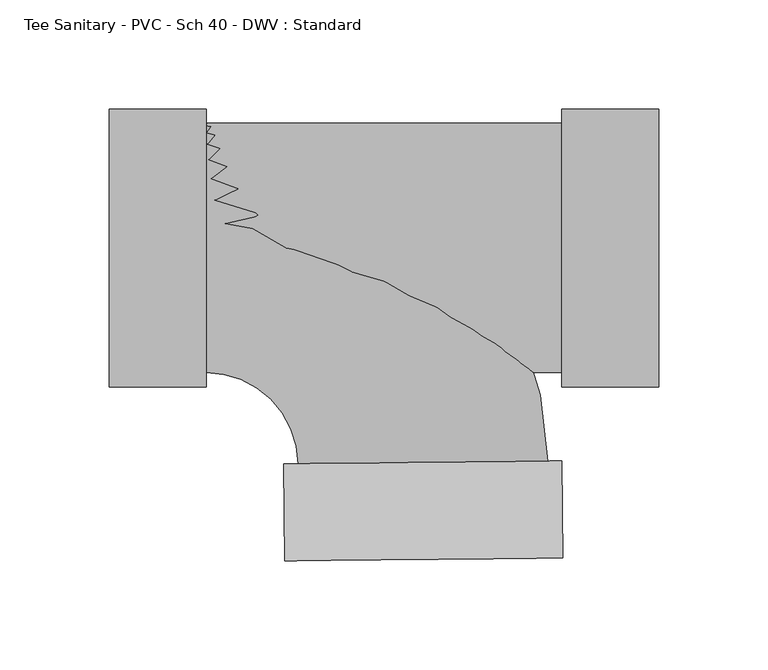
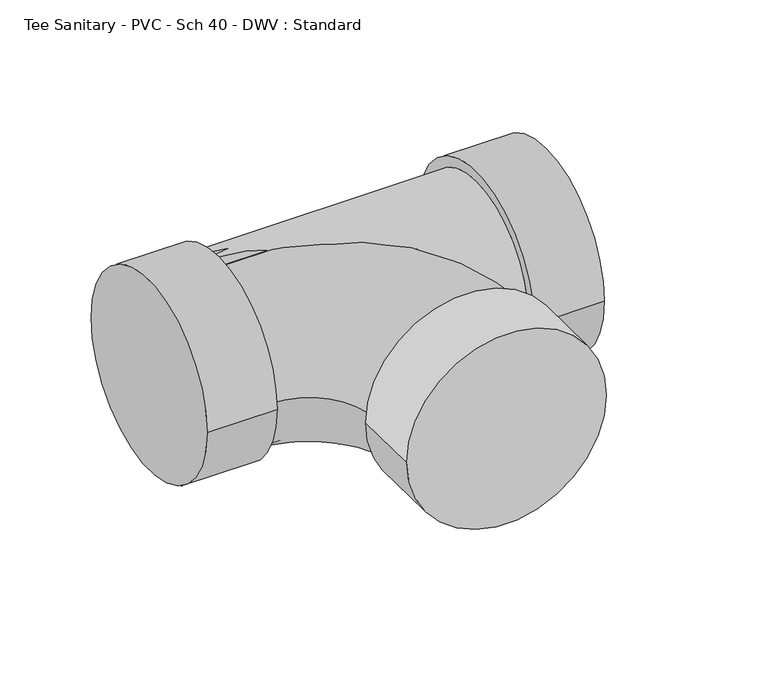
"""IFC4 building model written with IfcOpenShell, lengths in millimetres: pipe fitting geometry, Tee Sanitary - PVC - Sch 40 - DWV : Standard."""

import ifcopenshell
import ifcopenshell.guid

model = None  # the IFC model being written
_history = None  # IfcOwnerHistory: only IFC2X3 demands one
_inside = {}  # id of a spatial element -> (the spatial element, [elements in it])
_under = {}  # id of a project, library or spatial element -> (it, [spatial elements below it])
_declared = {}  # id of a project -> (the project, [libraries it declares])
_typed = {}  # id of a type object -> (the type object, [elements of that type])
_made_of = {}  # id of a material, layer set ... -> (it, [elements and type objects made of it])


def new_model(schema):
    """Start an empty IFC model of exactly this schema.

    Asked for "IFC4X3", IfcOpenShell would pick the latest addendum, in which some entities
    have other attributes; the version numbers below select the first issue.
    IFC2X3 requires an IfcOwnerHistory on every rooted entity: one is made here for all.
    """
    global model, _history
    if schema == "IFC4X3":
        model = ifcopenshell.file(schema_version=(4, 3, 0, 0))
    else:
        model = ifcopenshell.file(schema=schema)
    _inside.clear()
    _under.clear()
    _declared.clear()
    _typed.clear()
    _made_of.clear()
    _history = None
    if model.schema == "IFC2X3":
        org = make("IfcOrganization", Name="unknown")
        user = make(
            "IfcPersonAndOrganization",
            ThePerson=make("IfcPerson", FamilyName="unknown"),
            TheOrganization=org,
        )
        app = make(
            "IfcApplication",
            ApplicationDeveloper=org,
            Version="unknown",
            ApplicationFullName="unknown",
            ApplicationIdentifier="unknown",
        )
        _history = make(
            "IfcOwnerHistory",
            OwningUser=user,
            OwningApplication=app,
            ChangeAction="ADDED",
            CreationDate=0,
        )
    return model


def make(cls, **values):
    """One entity of the class cls with the attributes given. An attribute that is None is left unset."""
    return model.create_entity(
        cls, **{name: value for name, value in values.items() if value is not None}
    )


def rooted(cls, **values):
    """An entity with a GlobalId (a new one), such as an element, a storey or a relation."""
    return make(cls, GlobalId=ifcopenshell.guid.new(), OwnerHistory=_history, **values)


def si_unit(unit_type, name, prefix=None):
    """IfcSIUnit, for example si_unit("LENGTHUNIT", "METRE", prefix="MILLI")."""
    return make("IfcSIUnit", UnitType=unit_type, Prefix=prefix, Name=name)


def assignment(units):
    """IfcUnitAssignment: the units of a project."""
    return None if units is None else make("IfcUnitAssignment", Units=units)


def point(xyz):
    """IfcCartesianPoint."""
    return None if xyz is None else make("IfcCartesianPoint", Coordinates=xyz)


def direction(xyz):
    """IfcDirection."""
    return None if xyz is None else make("IfcDirection", DirectionRatios=xyz)


def frame(location, z_axis=None, x_axis=None):
    """IfcAxis2Placement3D, a coordinate frame: its origin and axes. An axis left out is left unset."""
    return make(
        "IfcAxis2Placement3D",
        Location=point(location),
        Axis=direction(z_axis),
        RefDirection=direction(x_axis),
    )


def origin():
    """The frame at (0, 0, 0) with its axes left unset."""
    return frame((0.0, 0.0, 0.0))


def place(relative_to, where):
    """IfcLocalPlacement: puts the frame where relative to a parent placement (None: the world)."""
    return make(
        "IfcLocalPlacement", PlacementRelTo=relative_to, RelativePlacement=where
    )


def context(
    kind, dimensions, precision=None, world=None, true_north=None, identifier=None
):
    """IfcGeometricRepresentationContext, for example the 3D "Model" context."""
    return make(
        "IfcGeometricRepresentationContext",
        ContextIdentifier=identifier,
        ContextType=kind,
        CoordinateSpaceDimension=dimensions,
        Precision=precision,
        WorldCoordinateSystem=world,
        TrueNorth=true_north,
    )


def project(units=None, contexts=None):
    """IfcProject with its units and contexts."""
    return rooted(
        "IfcProject",
        Name="project",
        RepresentationContexts=contexts,
        UnitsInContext=assignment(units),
    )


def spatial(cls, under=None, at=None, **own):
    """A site, building, storey or space (cls), placed at a placement, below another one or the project."""
    s = rooted(cls, ObjectPlacement=at, **own)
    if under is not None:
        _under.setdefault(under.id(), (under, []))[1].append(s)
    return s


def circle_curve(where, radius):
    """IfcCircle in the frame where."""
    return make("IfcCircle", Position=where, Radius=radius)


def ellipse_curve(where, semi_axis1, semi_axis2):
    """IfcEllipse in the frame where."""
    return make(
        "IfcEllipse", Position=where, SemiAxis1=semi_axis1, SemiAxis2=semi_axis2
    )


def trimmed(basis, trim1, trim2, sense, master):
    """IfcTrimmedCurve: the piece of a basis curve between two trims."""
    return make(
        "IfcTrimmedCurve",
        BasisCurve=basis,
        Trim1=trim1,
        Trim2=trim2,
        SenseAgreement=sense,
        MasterRepresentation=master,
    )


def shape(context_of_items, identifier, shape_type, items):
    """IfcShapeRepresentation: the items that make up one representation, for example the "Body"."""
    return make(
        "IfcShapeRepresentation",
        ContextOfItems=context_of_items,
        RepresentationIdentifier=identifier,
        RepresentationType=shape_type,
        Items=items,
    )


def source(mapping_origin, context_of_items, identifier, shape_type, items):
    """IfcRepresentationMap: a shape defined once, which mapped items show again and again."""
    return make(
        "IfcRepresentationMap",
        MappingOrigin=mapping_origin,
        MappedRepresentation=shape(context_of_items, identifier, shape_type, items),
    )


def transform(
    local_origin,
    x_axis=None,
    y_axis=None,
    z_axis=None,
    scale=None,
    scale2=None,
    scale3=None,
    uniform=True,
):
    """IfcCartesianTransformationOperator3D, or its non-uniform kind. x_axis, y_axis, z_axis: its Axis1, 2, 3."""
    if uniform:
        return make(
            "IfcCartesianTransformationOperator3D",
            Axis1=direction(x_axis),
            Axis2=direction(y_axis),
            LocalOrigin=point(local_origin),
            Scale=scale,
            Axis3=direction(z_axis),
        )
    return make(
        "IfcCartesianTransformationOperator3DnonUniform",
        Axis1=direction(x_axis),
        Axis2=direction(y_axis),
        LocalOrigin=point(local_origin),
        Scale=scale,
        Axis3=direction(z_axis),
        Scale2=scale2,
        Scale3=scale3,
    )


def mapped(mapping_source, mapping_target):
    """IfcMappedItem: shows the shape of a source again, moved by a transform."""
    return make(
        "IfcMappedItem", MappingSource=mapping_source, MappingTarget=mapping_target
    )


def made_of(thing, what):
    """Note that an element or type object is made of a material, layer set ...; save() writes the relation."""
    if what is not None:
        _made_of.setdefault(what.id(), (what, []))[1].append(thing)
    return thing


def element(
    cls,
    number,
    at=None,
    inside=None,
    cuts=None,
    type_object=None,
    material=None,
    context=None,
    identifier="Body",
    shape_type=None,
    held_by="IfcProductDefinitionShape",
    body=None,
    shapes=None,
    **own,
):
    """One element of the class cls, such as IfcWall. Its Tag is "e" and its number.

    at: its placement. inside: the storey or other place that contains it. cuts: it is an
    opening in that element (IfcRelVoidsElement). A single representation is given by context,
    identifier, shape_type and body (its items); several are given by shapes. held_by: the class
    of the entity that holds the representations. save() writes the other relations.
    """
    e = rooted(cls, Tag="e%d" % number, ObjectPlacement=at, **own)
    if body is not None:
        shapes = [shape(context, identifier, shape_type, body)]
    if shapes is not None:
        e.Representation = make(held_by, Representations=shapes)
    if inside is not None:
        _inside.setdefault(inside.id(), (inside, []))[1].append(e)
    if cuts is not None:
        rooted(
            "IfcRelVoidsElement", RelatingBuildingElement=cuts, RelatedOpeningElement=e
        )
    if type_object is not None:
        _typed.setdefault(type_object.id(), (type_object, []))[1].append(e)
    return made_of(e, material)


def aggregate(whole, parts):
    """IfcRelAggregates: a whole, such as a stair, and the parts it consists of."""
    return rooted("IfcRelAggregates", RelatingObject=whole, RelatedObjects=parts)


def save(model, path):
    """Write the relations noted so far, then the file.

    IfcRelAggregates (storeys below a building ...), IfcRelContainedInSpatialStructure (elements
    in a storey), IfcRelDefinesByType, IfcRelAssociatesMaterial and IfcRelDeclares: one each for
    every whole, place, type object, material and project.
    """
    for whole, parts in _under.values():
        aggregate(whole, parts)
    for where, things in _inside.values():
        rooted(
            "IfcRelContainedInSpatialStructure",
            RelatedElements=things,
            RelatingStructure=where,
        )
    for kind, things in _typed.values():
        rooted("IfcRelDefinesByType", RelatedObjects=things, RelatingType=kind)
    for what, things in _made_of.values():
        rooted("IfcRelAssociatesMaterial", RelatedObjects=things, RelatingMaterial=what)
    for by, libraries in _declared.values():
        rooted("IfcRelDeclares", RelatingContext=by, RelatedDefinitions=libraries)
    model.write(path)


def plane_surface(at):
    """IfcPlane: the flat surface through the origin of the frame at, square to its z axis."""
    return make("IfcPlane", Position=at)


def cylinder_surface(at, radius):
    """IfcCylindricalSurface: all points at the distance radius from the z axis of the frame at."""
    return make("IfcCylindricalSurface", Position=at, Radius=radius)


def revolved_surface(curve, axis_point, axis_direction):
    """IfcSurfaceOfRevolution: the curve turned about the line through axis_point along axis_direction."""
    return make(
        "IfcSurfaceOfRevolution",
        SweptCurve=make("IfcArbitraryOpenProfileDef", ProfileType="CURVE", Curve=curve),
        AxisPosition=make("IfcAxis1Placement", Location=point(axis_point), Axis=direction(axis_direction)),
    )


def advanced_brep(points, edges, surfaces, faces):
    """IfcAdvancedBrep: a solid bounded by faces that lie on surfaces and meet in shared edges.

    An edge is (start, end): straight between two places in points (the first is 0);
    or (start, end, curve); or (start, end, curve, False) where it runs against its curve.
    A face is (place in surfaces, loops), or (place, loops, False) where it looks against
    its surface's normal. A loop lists edges by number (the first is 1), with a minus sign
    where the edge is run from its end to its start. The first loop is the outer one.
    """
    corners = [point(p) for p in points]
    vertices = [make("IfcVertexPoint", VertexGeometry=c) for c in corners]
    made = []
    for start, end, *more in edges:
        made.append(
            make(
                "IfcEdgeCurve",
                EdgeStart=vertices[start],
                EdgeEnd=vertices[end],
                EdgeGeometry=more[0] if more else make("IfcPolyline", Points=[corners[start], corners[end]]),
                SameSense=more[1] if len(more) > 1 else True,
            )
        )
    hull = []
    for where, loops, *sense in faces:
        bounds = []
        for j, loop in enumerate(loops):
            ring = [make("IfcOrientedEdge", EdgeElement=made[abs(k) - 1], Orientation=k > 0) for k in loop]
            bounds.append(
                make(
                    "IfcFaceOuterBound" if j == 0 else "IfcFaceBound",
                    Bound=make("IfcEdgeLoop", EdgeList=ring),
                    Orientation=True,
                )
            )
        hull.append(make("IfcAdvancedFace", Bounds=bounds, FaceSurface=surfaces[where], SameSense=sense[0] if sense else True))
    return make("IfcAdvancedBrep", Outer=make("IfcClosedShell", CfsFaces=hull))


def tee_sanitary_pvc_sch_40_dwv_standard_2f6296fd(model_context):
    return source(origin(), model_context, "Body", "AdvancedBrep", [
        advanced_brep(
        [(-98.425, -57.15, 0.0), (-98.425, 57.15, 0.0), (-56.1230327, -99.0141825, 0.0), (58.1707827, -97.8251663, 0.0), (65.2368206, -142.2040625, 0.0), (-62.2642801, -143.5304761, 0.0), (64.7744254, -97.7564676, 0.0), (-62.7266753, -99.0828812, 0.0)],
        [
            (0, 1, circle_curve(frame((-98.425, 0.0, 0.0), z_axis=(-1.0, 0.0, 0.0), x_axis=(0.0, 1.0, 0.0)), 57.15)),
            (1, 0, circle_curve(frame((-98.425, 0.0, 0.0), z_axis=(-1.0, 0.0, 0.0), x_axis=(0.0, 1.0, 0.0)), 57.15)),
            (0, 2, circle_curve(frame((-98.425, -99.4542564, 0.0), z_axis=(0.0, 0.0, -1.0), x_axis=(0.0, 1.0, 0.0)), 42.3042564)),
            (2, 3, circle_curve(frame((1.023875, -98.4196744, 0.0), z_axis=(-0.010402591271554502, 0.9999458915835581, 0.0), x_axis=(0.9999458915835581, 0.010402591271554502, 0.0)), 57.15)),
            (3, 1, circle_curve(frame((-98.425, -99.4542564, 0.0), z_axis=(0.0, 0.0, 1.0), x_axis=(0.0, 1.0, 0.0)), 156.6042564)),
            (3, 2, circle_curve(frame((1.023875, -98.4196744, 0.0), z_axis=(-0.010402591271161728, 0.9999458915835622, 0.0), x_axis=(0.9999458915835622, 0.010402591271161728, 0.0)), 57.15)),
            (4, 5, circle_curve(frame((1.4862702, -142.8672693, 0.0), z_axis=(0.010402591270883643, -0.9999458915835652, 0.0), x_axis=(-0.9999458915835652, -0.010402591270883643, 0.0)), 63.754)),
            (5, 4, circle_curve(frame((1.4862702, -142.8672693, 0.0), z_axis=(0.010402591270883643, -0.9999458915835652, 0.0), x_axis=(-0.9999458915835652, -0.010402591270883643, 0.0)), 63.754)),
            (6, 7, circle_curve(frame((1.023875, -98.4196744, 0.0), z_axis=(-0.010402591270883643, 0.9999458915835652, 0.0), x_axis=(-0.9999458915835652, -0.010402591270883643, 0.0)), 63.754)),
            (7, 6, circle_curve(frame((1.023875, -98.4196744, 0.0), z_axis=(-0.010402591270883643, 0.9999458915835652, 0.0), x_axis=(-0.9999458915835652, -0.010402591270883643, 0.0)), 63.754)),
            (4, 6),
            (7, 5),
        ],
        [
            plane_surface(frame((-98.425, 0.0, 0.0), z_axis=(-1.0, 0.0, 0.0), x_axis=(0.0, 0.0, 1.0))),
            revolved_surface(trimmed(ellipse_curve(frame((-98.425, 0.0, 0.0), z_axis=(-1.0, 0.0, 0.0), x_axis=(0.0, 1.0, 0.0)), 57.15, 57.15), [point((-98.425, -57.15, 0.0))], [point((-98.425, 57.15, 0.0))], True, "CARTESIAN"), (-98.425, -99.4542564, 0.0), (0.0, 0.0, -1.0)),
            revolved_surface(trimmed(ellipse_curve(frame((-98.425, 0.0, 0.0), z_axis=(-1.0, 0.0, 0.0), x_axis=(0.0, 1.0, 0.0)), 57.15, 57.15), [point((-98.425, 57.15, 0.0))], [point((-98.425, -57.15, 0.0))], True, "CARTESIAN"), (-98.425, -99.4542564, 0.0), (0.0, 0.0, -1.0)),
            plane_surface(frame((1.4862702, -142.8672693, 0.0), z_axis=(0.010402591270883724, -0.9999458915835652, 0.0), x_axis=(0.0, 0.0, 1.0))),
            plane_surface(frame((1.023875, -98.4196744, 0.0), z_axis=(-0.010402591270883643, 0.9999458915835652, 0.0), x_axis=(0.0, 0.0, 1.0))),
            cylinder_surface(frame((1.4862702, -142.8672693, 0.0), z_axis=(0.010402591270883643, -0.9999458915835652, 0.0), x_axis=(-0.9999458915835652, -0.010402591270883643, 0.0)), 63.754),
        ],
        [
            (0, [[1, 2]]),
            (1, [[-1, 3, 4, 5]]),
            (2, [[-2, -5, 6, -3]]),
            (3, [[7, 8]]),
            (4, [[9, 10], [-4, -6]]),
            (5, [[-7, 11, -10, 12]]),
            (5, [[-8, -12, -9, -11]]),
        ],
    ),
        advanced_brep(
        [(-98.425, -57.15, 0.0), (64.7744254, -57.15, 0.0), (64.7744254, 57.15, 0.0), (-98.425, 57.15, 0.0), (64.7744254, -63.754, 0.0), (64.7744254, 63.754, 0.0), (109.2244254, -63.754, 0.0), (109.2244254, 63.754, 0.0), (-142.875, -63.754, 0.0), (-142.875, 63.754, 0.0), (-98.425, -63.754, 0.0), (-98.425, 63.754, 0.0)],
        [
            (0, 1),
            (1, 2, circle_curve(frame((64.7744254, 0.0, 0.0), z_axis=(-1.0, 0.0, 0.0), x_axis=(0.0, 1.0, 0.0)), 57.15)),
            (2, 3),
            (3, 0, circle_curve(frame((-98.425, 0.0, 0.0), z_axis=(1.0, 0.0, 0.0), x_axis=(0.0, 1.0, 0.0)), 57.15)),
            (0, 3, circle_curve(frame((-98.425, 0.0, 0.0), z_axis=(1.0, 0.0, 0.0), x_axis=(0.0, 1.0, 0.0)), 57.15)),
            (2, 1, circle_curve(frame((64.7744254, 0.0, 0.0), z_axis=(-1.0, 0.0, 0.0), x_axis=(0.0, 1.0, 0.0)), 57.15)),
            (4, 5, circle_curve(frame((64.7744254, 0.0, 0.0), z_axis=(-1.0, 0.0, 0.0), x_axis=(0.0, 1.0, 0.0)), 63.754)),
            (5, 4, circle_curve(frame((64.7744254, 0.0, 0.0), z_axis=(-1.0, 0.0, 0.0), x_axis=(0.0, 1.0, 0.0)), 63.754)),
            (6, 7, circle_curve(frame((109.2244254, 0.0, 0.0), z_axis=(1.0, 0.0, 0.0), x_axis=(0.0, 1.0, 0.0)), 63.754)),
            (7, 6, circle_curve(frame((109.2244254, 0.0, 0.0), z_axis=(1.0, 0.0, 0.0), x_axis=(0.0, 1.0, 0.0)), 63.754)),
            (4, 6),
            (7, 5),
            (8, 9, circle_curve(frame((-142.875, 0.0, 0.0), z_axis=(-1.0, 0.0, 0.0), x_axis=(0.0, 1.0, 0.0)), 63.754)),
            (9, 8, circle_curve(frame((-142.875, 0.0, 0.0), z_axis=(-1.0, 0.0, 0.0), x_axis=(0.0, 1.0, 0.0)), 63.754)),
            (10, 11, circle_curve(frame((-98.425, 0.0, 0.0), z_axis=(1.0, 0.0, 0.0), x_axis=(0.0, 1.0, 0.0)), 63.754)),
            (11, 10, circle_curve(frame((-98.425, 0.0, 0.0), z_axis=(1.0, 0.0, 0.0), x_axis=(0.0, 1.0, 0.0)), 63.754)),
            (8, 10),
            (11, 9),
        ],
        [
            cylinder_surface(frame((-98.425, 0.0, 0.0), z_axis=(-1.0, 0.0, 0.0), x_axis=(0.0, 1.0, 0.0)), 57.15),
            plane_surface(frame((64.7744254, 0.0, 0.0), z_axis=(-1.0, 0.0, 0.0), x_axis=(0.0, 0.0, 1.0))),
            plane_surface(frame((109.2244254, 0.0, 0.0), z_axis=(1.0, 0.0, 0.0), x_axis=(0.0, 0.0, 1.0))),
            cylinder_surface(frame((64.7744254, 0.0, 0.0), z_axis=(-1.0, 0.0, 0.0), x_axis=(0.0, 1.0, 0.0)), 63.754),
            plane_surface(frame((-142.875, 0.0, 0.0), z_axis=(-1.0, 0.0, 0.0), x_axis=(0.0, 0.0, 1.0))),
            plane_surface(frame((-98.425, 0.0, 0.0), z_axis=(1.0, 0.0, 0.0), x_axis=(0.0, 0.0, 1.0))),
            cylinder_surface(frame((-142.875, 0.0, 0.0), z_axis=(-1.0, 0.0, 0.0), x_axis=(0.0, 1.0, 0.0)), 63.754),
        ],
        [
            (0, [[1, 2, 3, 4]]),
            (0, [[-1, 5, -3, 6]]),
            (1, [[7, 8], [-2, -6]]),
            (2, [[9, 10]]),
            (3, [[-7, 11, -10, 12]]),
            (3, [[-8, -12, -9, -11]]),
            (4, [[13, 14]]),
            (5, [[15, 16], [-4, -5]]),
            (6, [[-13, 17, -16, 18]]),
            (6, [[-14, -18, -15, -17]]),
        ],
    ),
    ])


if __name__ == "__main__":
    model = new_model("IFC4")
    model_context = context("Model", 3, world=origin())
    ifc_project = project(units=[si_unit("LENGTHUNIT", "METRE", prefix="MILLI")], contexts=[model_context])
    site = spatial("IfcSite", under=ifc_project)
    building = spatial("IfcBuilding", under=site)
    placement = place(None, origin())
    tee_sanitary_pvc_sch_40_dwv_standard_shape = tee_sanitary_pvc_sch_40_dwv_standard_2f6296fd(model_context)
    element("IfcPipeFitting", 1, ObjectType="Tee Sanitary - PVC - Sch 40 - DWV : Standard", at=placement, inside=building, context=model_context, shape_type="MappedRepresentation", body=[
        mapped(tee_sanitary_pvc_sch_40_dwv_standard_shape, transform((0.0, 0.0, 0.0), x_axis=(1.0, 0.0, 0.0), y_axis=(0.0, 1.0, 0.0), z_axis=(0.0, 0.0, 1.0))),
    ])
    save(model, "model.ifc")
